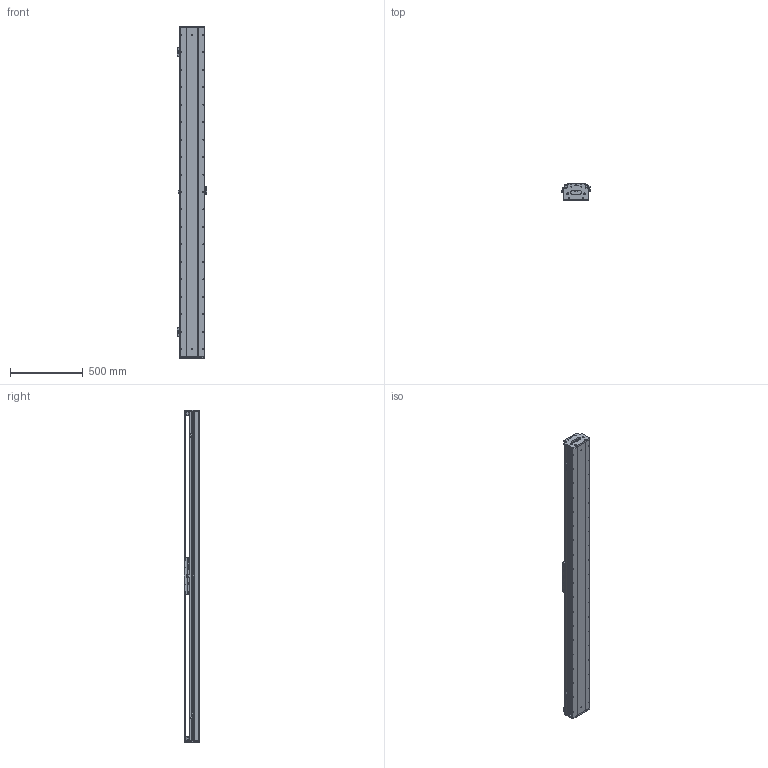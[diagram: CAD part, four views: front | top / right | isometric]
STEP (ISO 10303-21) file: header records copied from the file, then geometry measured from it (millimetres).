
FILE_DESCRIPTION (( 'STEP AP203' ), '1' );
FILE_NAME ('DKW168-C3-W090（T1920-L005-0.2）.STEP', '2021-09-14T00:46:53', ( '微软用户' ), ( '微软中国' ), 'SwSTEP 2.0', 'SolidWorks 2018', '' );
FILE_SCHEMA (( 'CONFIG_CONTROL_DESIGN' ));
Length unit declared in the file: millimetre
Products named in the file (26): 10279-0001-003-00 傷啣; 嫖萇羲壽蚾饜极A; DKW168-RU-DTJ-00 RU2黍杅芛盓殤; DKW168-HXJ-00 遣喳砎蝶; DKW168-C3-W090-HTB-04 C3-W090賑怢啣; DKW168-C3-W090（T1920-L005-0.2）; RUS嫖掑喜; 10392-0001-002-00 詩湍裔啣; MSB20S1FC; Ru2; 砎蝶猾沭; CKM03-W090-C1C2-TP-0.2 珨极萇儂; RUS嫖掑郪璃; 10392-0001-003-00 詩湍嶺輸; DKW168-HYB-00 賑輸揤啣; pm-y65; 10392-0001-004-00 詩湍揤輸; C3-W090; 10980-0001-003-00 嫖萇羲壽嘐隅釱; 10279-0001-006-00 嶺輸菜輸; 10392-0001-001-00 菁釱; 嫖萇羲壽蚾饜极; DKW168 单轴模组-拉钢带组件; MSA20絳寢; DKW-SG-GYP-H-00 嫖萇覜茼え; CKM01-W090-TRL280
Assembly tree (41 placements, depth 3):
  DKW168-C3-W090（T1920-L005-0.2）
    C3-W090
      DKW168-C3-W090-HTB-04 C3-W090賑怢啣
      MSB20S1FC  x4
      CKM03-W090-C1C2-TP-0.2 珨极萇儂
      DKW168-HYB-00 賑輸揤啣  x2
    10392-0001-001-00 菁釱
    MSA20絳寢  x2
    DKW168 单轴模组-拉钢带组件
      10279-0001-003-00 傷啣  x2
      DKW168-HXJ-00 遣喳砎蝶  x4
      10392-0001-002-00 詩湍裔啣
      砎蝶猾沭  x2
      10392-0001-003-00 詩湍嶺輸  x2
      10392-0001-004-00 詩湍揤輸  x2
      10279-0001-006-00 嶺輸菜輸  x2
    CKM01-W090-TRL280
    DKW168-RU-DTJ-00 RU2黍杅芛盓殤
    RUS嫖掑郪璃
      RUS嫖掑喜
      Ru2
    嫖萇羲壽蚾饜极
      pm-y65
      10980-0001-003-00 嫖萇羲壽嘐隅釱
    DKW-SG-GYP-H-00 嫖萇覜茼え
    嫖萇羲壽蚾饜极A
      pm-y65  x2
      10980-0001-003-00 嫖萇羲壽嘐隅釱
Bounding box: 202.1 x 109 x 2280 mm (x, y, z)
Volume: 15065669.5 mm3; surface area: 4403457.5 mm2
Topology: 48 solids, 97 shells, 4900 faces, 12859 edges, 8202 vertices
Faces by surface type: plane 2433, cylinder 1646, cone 510, bspline 279, torus 16, sphere 16
Entity records: 122829 total; most frequent: CARTESIAN_POINT 41238, ORIENTED_EDGE 16393, DIRECTION 15662, EDGE_CURVE 8237, VERTEX_POINT 5373, AXIS2_PLACEMENT_3D 5346, LINE 4970, VECTOR 4970
